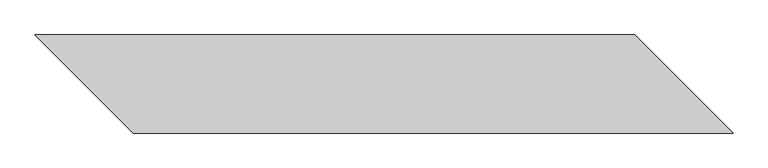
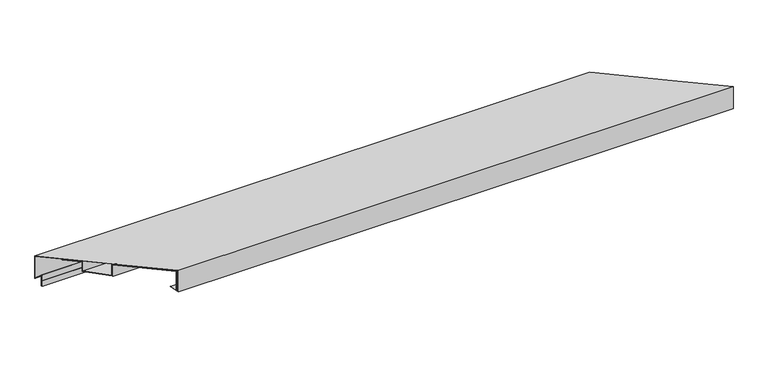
"""IFC4 building model written with IfcOpenShell, lengths in millimetres: proxy geometry, АК5_1 Парапет : АК5_1 Парапет."""

from ifc_helpers import new_model, si_unit, origin, place, context, project, spatial, faceted_brep, source, transform, mapped, element, save


def generic_models_93ef42b6(model_context):
    return source(origin(), model_context, "Body", "Brep", [
        faceted_brep([(150.0, -150.0, 62.265966), (150.0, -150.0, -20.4), (2149.3837291, -150.0, -20.4), (2149.3837291, -150.0, 62.265966), (-177.1, 177.1, 33.6484242), (0.0, 0.0, 49.1426665), (1999.3837291, 0.0, 49.1426665), (1822.2837291, 177.1, 33.6484242), (-177.1, 177.1, -51.4916897), (1822.2837291, 177.1, -51.4916897), (-162.9578644, 162.9578644, -37.3495541), (1836.4258647, 162.9578644, -37.3495541), (-162.9578644, 162.9578644, -77.3495541), (1836.4258647, 162.9578644, -77.3495541), (-160.0, 160.0, -77.3495541), (1839.3837291, 160.0, -77.3495541), (-160.0, 160.0, -57.3495541), (1839.3837291, 160.0, -57.3495541), (-161.0, 161.0, -57.3495541), (1838.3837291, 161.0, -57.3495541), (-161.0, 161.0, -76.3495541), (1838.3837291, 161.0, -76.3495541), (-161.9578644, 161.9578644, -76.3495541), (1837.4258647, 161.9578644, -76.3495541), (-161.9578644, 161.9578644, -34.9353406), (1837.4258647, 161.9578644, -34.9353406), (-176.1, 176.1, -49.0774762), (1823.2837291, 176.1, -49.0774762), (-176.1, 176.1, 32.732093), (1823.2837291, 176.1, 32.732093), (0.0, 0.0, 48.1388467), (1999.3837291, 0.0, 48.1388467), (2148.3837291, -149.0, 61.1746575), (149.0, -149.0, 61.1746575), (149.0, -149.0, -17.9857864), (2148.3837291, -149.0, -17.9857864), (133.0294373, -133.0294373, -2.0152237), (2132.4131663, -133.0294373, -2.0152237), (132.3223305, -132.3223305, -2.7223305), (2131.7060596, -132.3223305, -2.7223305)], [[[0, 1, 2, 3]], [[4, 5, 0, 3, 6, 7]], [[8, 4, 7, 9]], [[10, 8, 9, 11]], [[12, 10, 11, 13]], [[14, 12, 13, 15]], [[16, 14, 15, 17]], [[18, 16, 17, 19]], [[20, 18, 19, 21]], [[22, 20, 21, 23]], [[24, 22, 23, 25]], [[26, 24, 25, 27]], [[28, 26, 27, 29]], [[30, 28, 29, 31, 32, 33]], [[34, 33, 32, 35]], [[36, 34, 35, 37]], [[38, 36, 37, 39]], [[1, 38, 39, 2]], [[30, 5, 4, 8, 10, 12, 14, 16, 18, 20, 22, 24, 26, 28]], [[5, 30, 33, 34, 36, 38, 1, 0]], [[6, 31, 29, 27, 25, 23, 21, 19, 17, 15, 13, 11, 9, 7]], [[31, 6, 3, 2, 39, 37, 35, 32]]]),
        faceted_brep([(148.0, -148.0, -12.5), (146.0, -146.0, -12.5), (2145.3837291, -146.0, -12.5), (2147.3837291, -148.0, -12.5), (148.0, -148.0, 60.083349), (2147.3837291, -148.0, 60.083349), (-1.5433638, 1.5433638, 47.0), (0.0, 0.0, 47.1350268), (1999.3837291, 0.0, 47.1350268), (1997.8403653, 1.5433638, 47.0), (-1.5433638, 1.5433638, 4.0), (1997.8403653, 1.5433638, 4.0), (-67.5433638, 67.5433638, 4.0), (1931.8403653, 67.5433638, 4.0), (-67.5433638, 67.5433638, 41.2257482), (1931.8403653, 67.5433638, 41.2257482), (-114.5464367, 114.5464367, 37.1135122), (1884.8372924, 114.5464367, 37.1135122), (-114.3721252, 114.3721252, 35.1211228), (1885.0116039, 114.3721252, 35.1211228), (-69.5433638, 69.5433638, 39.0431312), (1929.8403653, 69.5433638, 39.0431312), (-69.5433638, 69.5433638, 2.0), (1929.8403653, 69.5433638, 2.0), (0.0, 0.0, 2.0), (1999.3837291, 0.0, 2.0), (1999.8403653, -0.4566362, 2.0), (0.4566362, -0.4566362, 2.0), (0.4566362, -0.4566362, 45.1673377), (1999.8403653, -0.4566362, 45.1673377), (146.0, -146.0, 57.900732), (2145.3837291, -146.0, 57.900732)], [[[0, 1, 2, 3]], [[4, 0, 3, 5]], [[6, 7, 4, 5, 8, 9]], [[10, 6, 9, 11]], [[12, 10, 11, 13]], [[14, 12, 13, 15]], [[16, 14, 15, 17]], [[18, 16, 17, 19]], [[20, 18, 19, 21]], [[22, 20, 21, 23]], [[24, 22, 23, 25, 26, 27]], [[28, 27, 26, 29]], [[30, 28, 29, 31]], [[1, 30, 31, 2]], [[24, 7, 6, 10, 12, 14, 16, 18, 20, 22]], [[7, 24, 27, 28, 30, 1, 0, 4]], [[8, 25, 23, 21, 19, 17, 15, 13, 11, 9]], [[25, 8, 5, 3, 2, 31, 29, 26]]]),
    ])


if __name__ == "__main__":
    model = new_model("IFC4")
    model_context = context("Model", 3, world=origin())
    ifc_project = project(units=[si_unit("LENGTHUNIT", "METRE", prefix="MILLI")], contexts=[model_context])
    site = spatial("IfcSite", under=ifc_project)
    building = spatial("IfcBuilding", under=site)
    placement = place(None, origin())
    generic_models_shape = generic_models_93ef42b6(model_context)
    element("IfcBuildingElementProxy", 1, Name="АК5_1 Парапет : АК5_1 Парапет", ObjectType="АК5_1 Парапет : АК5_1 Парапет", at=placement, inside=building, context=model_context, shape_type="MappedRepresentation", body=[
        mapped(generic_models_shape, transform((0.0, 0.0, 0.0), x_axis=(1.0, 0.0, 0.0), y_axis=(0.0, 1.0, 0.0), z_axis=(0.0, 0.0, 1.0))),
    ])
    save(model, "model.ifc")
